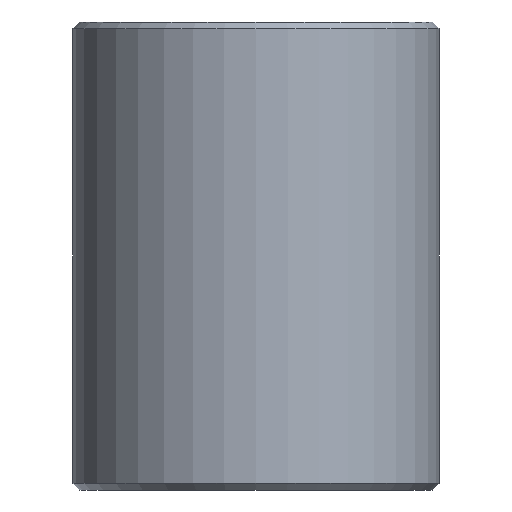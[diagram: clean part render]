
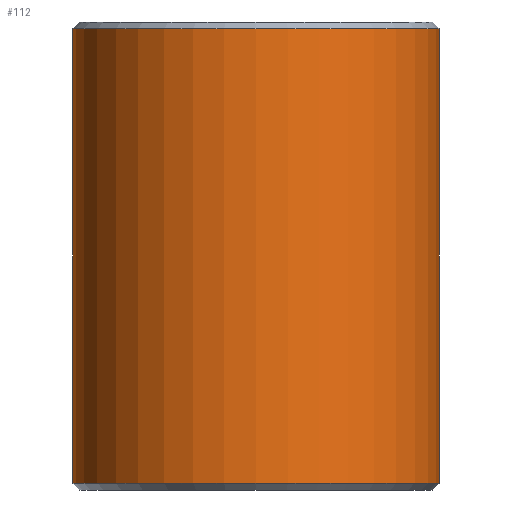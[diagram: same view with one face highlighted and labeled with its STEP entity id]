
A CAD part, front view. The second image highlights one B-rep face of the part: STEP entity #112.
In plain terms, the highlighted cylindrical face has radius 13.3 mm (diameter 26.6 mm), a full revolution.
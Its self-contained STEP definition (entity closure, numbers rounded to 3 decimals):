
#112=ADVANCED_FACE('',(#122,#123),#120,.T.);
#120=CYLINDRICAL_SURFACE('',#197,13.3);
#122=FACE_BOUND('',#138,.T.);
#123=FACE_BOUND('',#139,.T.);
#138=EDGE_LOOP('',(#154));
#139=EDGE_LOOP('',(#155));
#154=ORIENTED_EDGE('',*,*,#178,.T.);
#155=ORIENTED_EDGE('',*,*,#179,.T.);
#170=VERTEX_POINT('',#247);
#171=VERTEX_POINT('',#249);
#178=EDGE_CURVE('',#170,#170,#186,.T.);
#179=EDGE_CURVE('',#171,#171,#187,.T.);
#186=CIRCLE('',#195,13.3);
#187=CIRCLE('',#196,13.3);
#195=AXIS2_PLACEMENT_3D('',#246,#213,#214);
#196=AXIS2_PLACEMENT_3D('',#248,#215,#216);
#197=AXIS2_PLACEMENT_3D('',#250,#217,#218);
#213=DIRECTION('',(0.,0.,-1.));
#214=DIRECTION('',(-1.,0.,0.));
#215=DIRECTION('',(0.,0.,1.));
#216=DIRECTION('',(-1.,0.,0.));
#217=DIRECTION('',(0.,0.,-1.));
#218=DIRECTION('',(-1.,0.,0.));
#246=CARTESIAN_POINT('',(0.,0.,33.5));
#247=CARTESIAN_POINT('',(-13.3,0.,33.5));
#248=CARTESIAN_POINT('',(0.,0.,0.5));
#249=CARTESIAN_POINT('',(-13.3,0.,0.5));
#250=CARTESIAN_POINT('',(0.,0.,34.));
